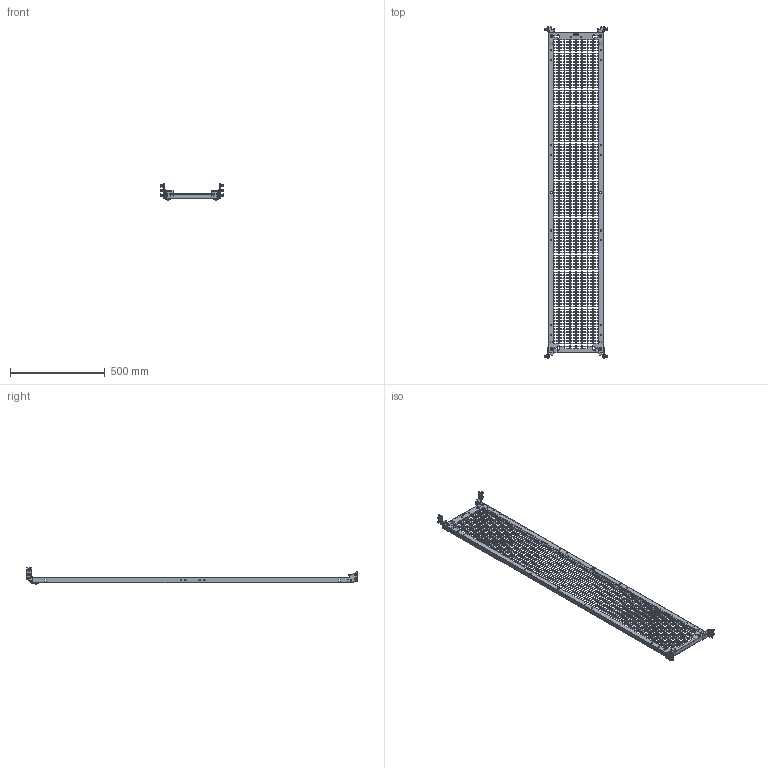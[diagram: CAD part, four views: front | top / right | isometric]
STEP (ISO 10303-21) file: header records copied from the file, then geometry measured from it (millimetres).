
FILE_DESCRIPTION (( 'STEP AP203' ), '1' );
FILE_NAME ('R5NPCEP1840.STEP', '2025-03-26T10:23:58', ( '' ), ( '' ), 'SwSTEP 2.0', 'SolidWorks 2022', '' );
FILE_SCHEMA (( 'CONFIG_CONTROL_DESIGN' ));
Length unit declared in the file: millimetre
Products named in the file (20): RB.2814.00.00.0 СБ; RB.1499.00.03.0; RB.2684.00.00.0 СБ; RB.2684.00.01.0; RB.2684.00.00.0 СБ_-01; R5NPCEP1840; RB.2814.00.01.0; RB.2684.00.03.0; RB.2814.00.00.0 СБ_-01; RB.2684.00.01.0_-01; RB.2628.00.00.0_-19; М6 D87181 Zinc_In a tightened position (1.5 mm); M6x16 DIN 912 HX cl.4,8 Zinc_thread; AC00C237; RB.2814.00.01.0_-01; M6 MGR-MKO-0625_1,5mm (thread); M6x16 DIN 7985 Torx cl.8,8 Zinc_stright; RB.2709.00.00.0; RB.2697.00.00.0; 003-006-19 GOST 9833-73
Assembly tree (43 placements, depth 3):
  R5NPCEP1840
    RB.2628.00.00.0_-19
    RB.2814.00.00.0 СБ_-01
      RB.2814.00.01.0_-01
      M6 MGR-MKO-0625_1,5mm (thread)
    RB.2814.00.00.0 СБ
      RB.2814.00.01.0
      M6 MGR-MKO-0625_1,5mm (thread)
    M6x16 DIN 912 HX cl.4,8 Zinc_thread  x2
    AC00C237  x2
    RB.2684.00.00.0 СБ_-01
      RB.2684.00.01.0_-01
      RB.2684.00.03.0
      RB.1499.00.03.0
      RB.2697.00.00.0
      003-006-19 GOST 9833-73  x2
    RB.2684.00.00.0 СБ
      RB.2684.00.01.0
      RB.2684.00.03.0
      RB.1499.00.03.0
      003-006-19 GOST 9833-73  x2
      RB.2697.00.00.0
    M6x16 DIN 7985 Torx cl.8,8 Zinc_stright  x8
    М6 D87181 Zinc_In a tightened position (1.5 mm)  x8
    RB.2709.00.00.0  x2
Bounding box: 328.3 x 1750.46 x 84.5 mm (x, y, z)
Volume: 1065378.3 mm3; surface area: 1030808.7 mm2
Topology: 39 solids, 39 shells, 5737 faces, 16455 edges, 10727 vertices
Faces by surface type: plane 4598, cylinder 512, bspline 301, cone 186, torus 132, sphere 8
Full cylindrical faces by diameter (mm): 0.6 x12, 2.3 x4, 2.5 x4, 3.8 x6, 4 x2, 4.2 x4, 4.92 x14, 5 x16, 6 x58, 6.5 x8, 6.7 x2, 7 x12, 7.5 x2, 8 x4, 8.3 x8, 9 x6, 10 x4, 12 x26, 15 x6
Entity records: 149219 total; most frequent: CARTESIAN_POINT 29365, ORIENTED_EDGE 24796, DIRECTION 21231, EDGE_CURVE 12398, LINE 11773, VECTOR 11773, VERTEX_POINT 8332, EDGE_LOOP 6422
